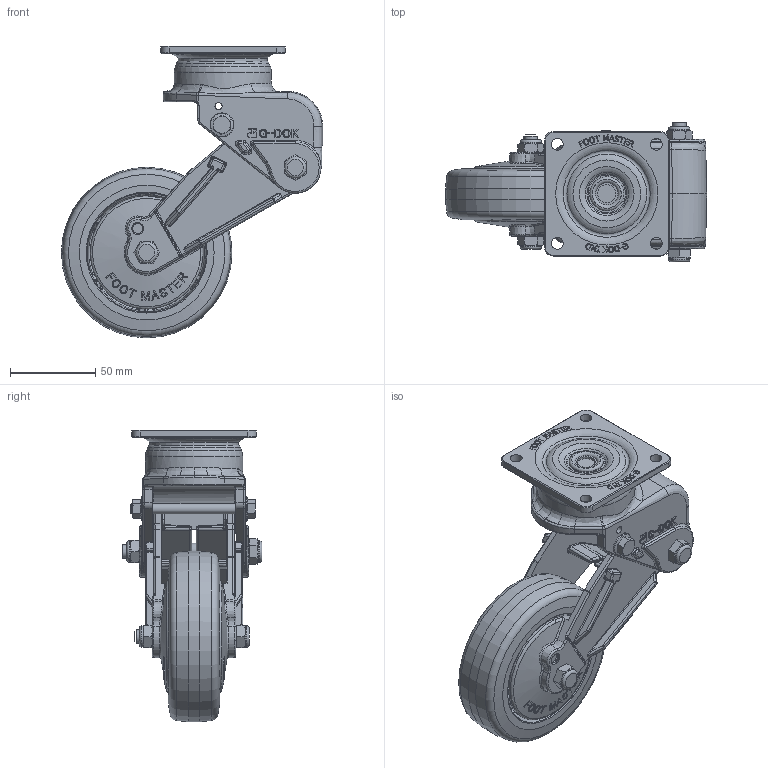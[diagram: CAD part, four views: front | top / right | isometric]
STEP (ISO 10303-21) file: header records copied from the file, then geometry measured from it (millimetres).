
FILE_DESCRIPTION(/* description */ (''),/* implementation_level */ '2;1');
FILE_NAME(/* name */ 'Z:\1.기술연구소\2.연구개발 진행중\25.충격흡수식_BBB\JYH\GDS-100-BB\2020년도\3.도면\1.3D\STEP-FILE\홈페이지용 3D\내부화 최종\GDSB-100-ARF-LUD.stp',/* time_stamp */ '2021-10-08T18:58:40+09:00',/* author */ ('admin'),/* organization */ (''),/* preprocessor_version */ 'ST-DEVELOPER v18.1',/* originating_system */ 'Autodesk Inventor 2021',/* authorisation */ '');
FILE_SCHEMA (('AUTOMOTIVE_DESIGN { 1 0 10303 214 3 1 1 }'));
Length unit declared in the file: millimetre
Products named in the file (1): GDSB-100-ARF
Bounding box: 153.11 x 82 x 171 mm (x, y, z)
Volume: 361628 mm3; surface area: 115630.9 mm2
Topology: 1 solids, 2 shells, 2622 faces, 6567 edges, 4002 vertices
Faces by surface type: bspline 989, plane 862, cylinder 382, cone 192, torus 169, sphere 28
Full cylindrical faces by diameter (mm): 4.2 x2, 6 x2, 6.2 x2, 7 x4, 7.4 x1, 7.95 x5, 8.2 x2, 9.95 x1, 10.2 x4, 10.7 x1, 11.6 x2, 12.5 x4, 14 x2, 20 x2, 22.347 x2, 39 x1, 47.452 x1, 52 x1, 57 x1, 100 x1
Entity records: 104803 total; most frequent: CARTESIAN_POINT 44759, ORIENTED_EDGE 12990, DIRECTION 10445, EDGE_CURVE 6495, AXIS2_PLACEMENT_3D 4005, VERTEX_POINT 4002, EDGE_LOOP 2773, FACE_OUTER_BOUND 2622
